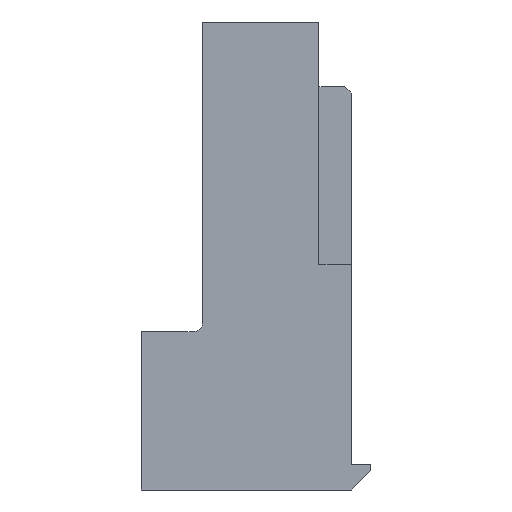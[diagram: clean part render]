
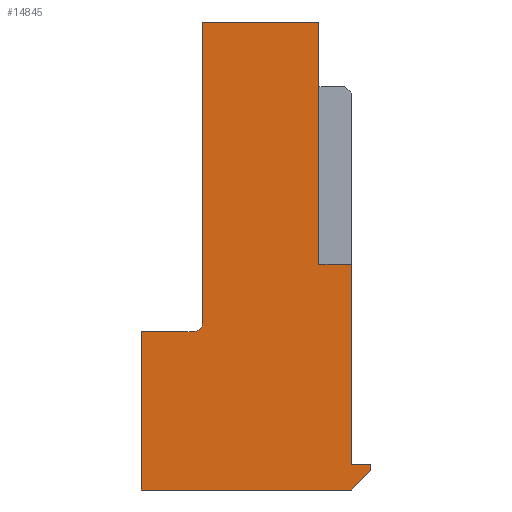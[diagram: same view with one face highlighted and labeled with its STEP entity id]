
A CAD part, left-side view. The second image highlights one B-rep face of the part: STEP entity #14845.
In plain terms, the highlighted planar face has unit normal (-1, 0, 0).
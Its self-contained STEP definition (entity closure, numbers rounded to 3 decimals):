
#134=DIRECTION('',(0.,-1.,0.));
#135=VECTOR('',#134,2.032);
#136=CARTESIAN_POINT('',(-21.793,4.369,-12.192));
#137=LINE('',#136,#135);
#138=DIRECTION('',(0.,0.,1.));
#139=VECTOR('',#138,11.811);
#140=CARTESIAN_POINT('',(-21.793,1.956,-11.811));
#141=LINE('',#140,#139);
#142=DIRECTION('',(0.,-1.,0.));
#143=VECTOR('',#142,4.572);
#144=CARTESIAN_POINT('',(-21.793,1.956,0.));
#145=LINE('',#144,#143);
#146=DIRECTION('',(0.,-1.,0.));
#147=VECTOR('',#146,1.27);
#148=CARTESIAN_POINT('',(-21.793,-2.616,-9.525));
#149=LINE('',#148,#147);
#150=DIRECTION('',(0.,0.,-1.));
#151=VECTOR('',#150,7.874);
#152=CARTESIAN_POINT('',(-21.793,-3.886,-9.525));
#153=LINE('',#152,#151);
#154=DIRECTION('',(0.,-1.,0.));
#155=VECTOR('',#154,0.762);
#156=CARTESIAN_POINT('',(-21.793,-3.886,-17.399));
#157=LINE('',#156,#155);
#158=DIRECTION('',(0.,0.,-1.));
#159=VECTOR('',#158,0.254);
#160=CARTESIAN_POINT('',(-21.793,-4.648,-17.399));
#161=LINE('',#160,#159);
#162=DIRECTION('',(0.,0.707,-0.707));
#163=VECTOR('',#162,1.078);
#164=CARTESIAN_POINT('',(-21.793,-4.648,-17.653));
#165=LINE('',#164,#163);
#166=DIRECTION('',(0.,1.,0.));
#167=VECTOR('',#166,8.255);
#168=CARTESIAN_POINT('',(-21.793,-3.886,-18.415));
#169=LINE('',#168,#167);
#170=DIRECTION('',(0.,0.,1.));
#171=VECTOR('',#170,6.223);
#172=CARTESIAN_POINT('',(-21.793,4.369,-18.415));
#173=LINE('',#172,#171);
#182=CARTESIAN_POINT('',(-21.793,2.337,-11.811));
#183=DIRECTION('',(1.,0.,0.));
#184=DIRECTION('',(0.,-1.,0.));
#185=AXIS2_PLACEMENT_3D('',#182,#183,#184);
#1264=DIRECTION('',(0.,0.,1.));
#1265=VECTOR('',#1264,9.525);
#1266=CARTESIAN_POINT('',(-21.793,-2.616,-9.525));
#1267=LINE('',#1266,#1265);
#11234=CARTESIAN_POINT('',(-21.793,1.956,0.));
#11235=CARTESIAN_POINT('',(-21.793,-2.616,0.));
#11236=VERTEX_POINT('',#11234);
#11237=VERTEX_POINT('',#11235);
#11242=CARTESIAN_POINT('',(-21.793,-3.886,-17.399));
#11243=CARTESIAN_POINT('',(-21.793,-4.648,-17.399));
#11244=VERTEX_POINT('',#11242);
#11245=VERTEX_POINT('',#11243);
#11246=CARTESIAN_POINT('',(-21.793,-4.648,-17.653));
#11247=VERTEX_POINT('',#11246);
#11248=CARTESIAN_POINT('',(-21.793,-3.886,-18.415));
#11249=VERTEX_POINT('',#11248);
#11250=CARTESIAN_POINT('',(-21.793,4.369,-18.415));
#11251=VERTEX_POINT('',#11250);
#11252=CARTESIAN_POINT('',(-21.793,4.369,-12.192));
#11253=VERTEX_POINT('',#11252);
#11394=CARTESIAN_POINT('',(-21.793,-2.616,-9.525));
#11395=CARTESIAN_POINT('',(-21.793,-3.886,-9.525));
#11396=VERTEX_POINT('',#11394);
#11397=VERTEX_POINT('',#11395);
#11690=CARTESIAN_POINT('',(-21.793,1.956,-11.811));
#11692=VERTEX_POINT('',#11690);
#11694=CARTESIAN_POINT('',(-21.793,2.337,-12.192));
#11696=VERTEX_POINT('',#11694);
#14814=CARTESIAN_POINT('',(-21.793,0.,0.));
#14815=DIRECTION('',(1.,0.,0.));
#14816=DIRECTION('',(0.,0.,-1.));
#14817=AXIS2_PLACEMENT_3D('',#14814,#14815,#14816);
#14818=PLANE('',#14817);
#14820=ORIENTED_EDGE('',*,*,#14819,.T.);
#14822=ORIENTED_EDGE('',*,*,#14821,.F.);
#14824=ORIENTED_EDGE('',*,*,#14823,.T.);
#14826=ORIENTED_EDGE('',*,*,#14825,.T.);
#14828=ORIENTED_EDGE('',*,*,#14827,.F.);
#14830=ORIENTED_EDGE('',*,*,#14829,.T.);
#14832=ORIENTED_EDGE('',*,*,#14831,.T.);
#14834=ORIENTED_EDGE('',*,*,#14833,.T.);
#14836=ORIENTED_EDGE('',*,*,#14835,.T.);
#14838=ORIENTED_EDGE('',*,*,#14837,.T.);
#14840=ORIENTED_EDGE('',*,*,#14839,.T.);
#14842=ORIENTED_EDGE('',*,*,#14841,.T.);
#14843=EDGE_LOOP('',(#14820,#14822,#14824,#14826,#14828,#14830,#14832,#14834,
#14836,#14838,#14840,#14842));
#14844=FACE_OUTER_BOUND('',#14843,.F.);
#186=CIRCLE('',#185,0.381);
#14819=EDGE_CURVE('',#11253,#11696,#137,.T.);
#14821=EDGE_CURVE('',#11692,#11696,#186,.T.);
#14823=EDGE_CURVE('',#11692,#11236,#141,.T.);
#14825=EDGE_CURVE('',#11236,#11237,#145,.T.);
#14827=EDGE_CURVE('',#11396,#11237,#1267,.T.);
#14829=EDGE_CURVE('',#11396,#11397,#149,.T.);
#14831=EDGE_CURVE('',#11397,#11244,#153,.T.);
#14833=EDGE_CURVE('',#11244,#11245,#157,.T.);
#14835=EDGE_CURVE('',#11245,#11247,#161,.T.);
#14837=EDGE_CURVE('',#11247,#11249,#165,.T.);
#14839=EDGE_CURVE('',#11249,#11251,#169,.T.);
#14841=EDGE_CURVE('',#11251,#11253,#173,.T.);
#14845=ADVANCED_FACE('',(#14844),#14818,.F.);
